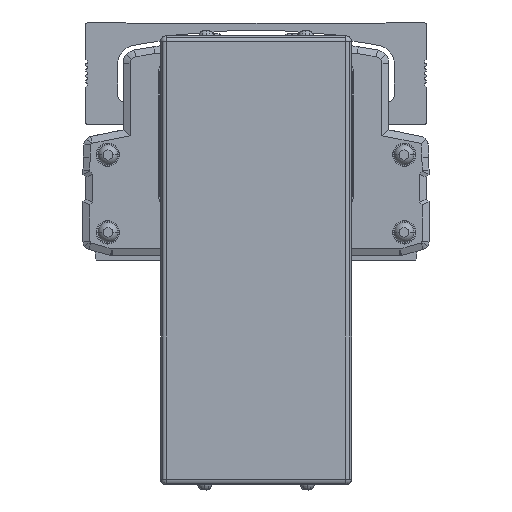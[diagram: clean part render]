
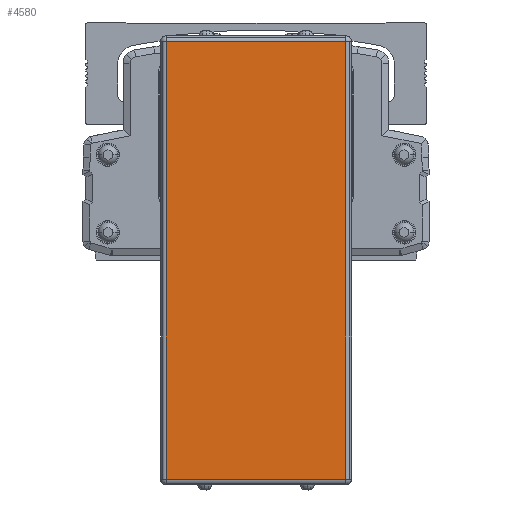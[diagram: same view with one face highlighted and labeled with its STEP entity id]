
A CAD part, front view. The second image highlights one B-rep face of the part: STEP entity #4580.
In plain terms, the highlighted planar face has unit normal (0, -1, 0).
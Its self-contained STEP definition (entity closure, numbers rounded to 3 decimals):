
#4580=ADVANCED_FACE('',(#10039),#10040,.T.);
#10039=FACE_OUTER_BOUND('',#17369,.T.);
#10040=PLANE('',#17370);
#17369=EDGE_LOOP('',(#31600,#31601,#31602,#31603));
#17370=AXIS2_PLACEMENT_3D('',#31604,#31605,#31606);
#31600=ORIENTED_EDGE('',*,*,#43844,.F.);
#31601=ORIENTED_EDGE('',*,*,#45012,.F.);
#31602=ORIENTED_EDGE('',*,*,#45013,.F.);
#31603=ORIENTED_EDGE('',*,*,#40965,.F.);
#31604=CARTESIAN_POINT('',(-299.996,-63.778,-49.1));
#31605=DIRECTION('',(0.,-1.0,0.));
#31606=DIRECTION('',(1.0,0.,0.));
#40965=EDGE_CURVE('',#49485,#49487,#49488,.T.);
#43844=EDGE_CURVE('',#48724,#49485,#53982,.T.);
#45012=EDGE_CURVE('',#55252,#48724,#55594,.T.);
#45013=EDGE_CURVE('',#49487,#55252,#55595,.T.);
#48724=VERTEX_POINT('',#60373);
#49485=VERTEX_POINT('',#61453);
#49487=VERTEX_POINT('',#61455);
#49488=LINE('',#61456,#61457);
#53982=LINE('',#67989,#67990);
#55252=VERTEX_POINT('',#69969);
#55594=LINE('',#70481,#70482);
#55595=LINE('',#70483,#70484);
#60373=CARTESIAN_POINT('',(-267.496,-63.778,30.));
#61453=CARTESIAN_POINT('',(-267.496,-63.778,-128.2));
#61455=CARTESIAN_POINT('',(-332.496,-63.778,-128.2));
#61456=CARTESIAN_POINT('',(-299.996,-63.778,-128.2));
#61457=VECTOR('',#75237,10.0);
#67989=CARTESIAN_POINT('',(-267.496,-63.778,-49.1));
#67990=VECTOR('',#78914,10.0);
#69969=CARTESIAN_POINT('',(-332.496,-63.778,30.));
#70481=CARTESIAN_POINT('',(-299.996,-63.778,30.));
#70482=VECTOR('',#80263,10.0);
#70483=CARTESIAN_POINT('',(-332.496,-63.778,-49.1));
#70484=VECTOR('',#80264,10.0);
#75237=DIRECTION('',(-1.0,0.,0.));
#78914=DIRECTION('',(0.0,0.,-1.0));
#80263=DIRECTION('',(1.0,0.,0.));
#80264=DIRECTION('',(0.0,0.,1.0));
